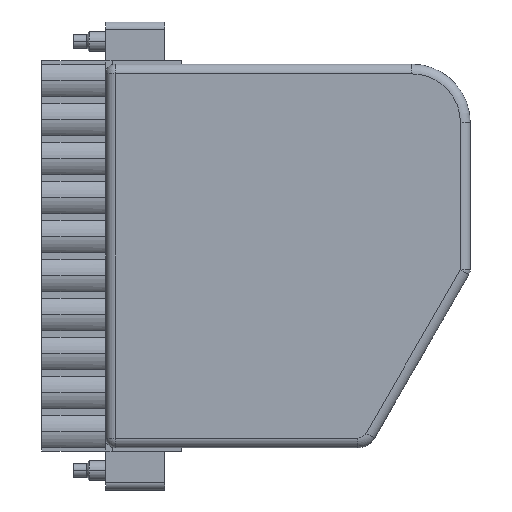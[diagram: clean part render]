
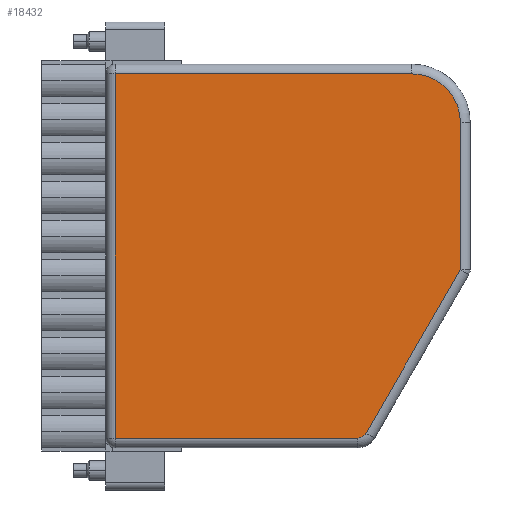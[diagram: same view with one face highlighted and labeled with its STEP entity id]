
A CAD part, front view. The second image highlights one B-rep face of the part: STEP entity #18432.
In plain terms, the highlighted planar face has unit normal (0, -1, 0).
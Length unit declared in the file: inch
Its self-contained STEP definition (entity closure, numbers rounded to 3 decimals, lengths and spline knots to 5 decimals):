
#17778=DIRECTION('',(0.5,0.,0.866));
#17779=VECTOR('',#17778,0.96887);
#17780=CARTESIAN_POINT('',(2.10666,0.27563,
-0.69443));
#17781=LINE('',#17780,#17779);
#17805=DIRECTION('',(0.,0.,-1.));
#17806=VECTOR('',#17805,1.868);
#17807=CARTESIAN_POINT('',(0.82109,0.27563,
1.14857));
#17808=LINE('',#17807,#17806);
#17845=DIRECTION('',(1.,0.,0.));
#17846=VECTOR('',#17845,1.24226);
#17847=CARTESIAN_POINT('',(0.82109,0.27563,
-0.71943));
#17848=LINE('',#17847,#17846);
#17858=CARTESIAN_POINT('',(2.06336,0.27563,
-0.66943));
#17859=DIRECTION('',(0.,-1.,0.));
#17860=DIRECTION('',(0.,0.,-1.));
#17861=AXIS2_PLACEMENT_3D('',#17858,#17859,#17860);
#17931=DIRECTION('',(0.,0.,1.));
#17932=VECTOR('',#17931,0.75394);
#17933=CARTESIAN_POINT('',(2.59109,0.27563,
0.14463));
#17934=LINE('',#17933,#17932);
#17944=CARTESIAN_POINT('',(2.34109,0.27563,
0.89857));
#17945=DIRECTION('',(0.,-1.,0.));
#17946=DIRECTION('',(1.,0.,0.));
#17947=AXIS2_PLACEMENT_3D('',#17944,#17945,#17946);
#17968=DIRECTION('',(-1.,0.,0.));
#17969=VECTOR('',#17968,1.52);
#17970=CARTESIAN_POINT('',(2.34109,0.27563,
1.14857));
#17971=LINE('',#17970,#17969);
#18229=CARTESIAN_POINT('',(0.82109,0.27563,
1.14857));
#18230=CARTESIAN_POINT('',(0.82109,0.27563,
-0.71943));
#18231=VERTEX_POINT('',#18229);
#18232=VERTEX_POINT('',#18230);
#18237=CARTESIAN_POINT('',(2.34109,0.27563,
1.14857));
#18238=VERTEX_POINT('',#18237);
#18239=CARTESIAN_POINT('',(2.59109,0.27563,
0.89857));
#18240=VERTEX_POINT('',#18239);
#18243=CARTESIAN_POINT('',(2.59109,0.27563,
0.14463));
#18244=VERTEX_POINT('',#18243);
#18247=CARTESIAN_POINT('',(2.10666,0.27563,
-0.69443));
#18248=VERTEX_POINT('',#18247);
#18253=CARTESIAN_POINT('',(2.06336,0.27563,
-0.71943));
#18254=VERTEX_POINT('',#18253);
#18412=CARTESIAN_POINT('',(1.70609,0.27563,
0.21457));
#18413=DIRECTION('',(0.,1.,0.));
#18414=DIRECTION('',(0.,0.,1.));
#18415=AXIS2_PLACEMENT_3D('',#18412,#18413,#18414);
#18416=PLANE('',#18415);
#18418=ORIENTED_EDGE('',*,*,#18417,.F.);
#18420=ORIENTED_EDGE('',*,*,#18419,.F.);
#18422=ORIENTED_EDGE('',*,*,#18421,.F.);
#18424=ORIENTED_EDGE('',*,*,#18423,.F.);
#18425=ORIENTED_EDGE('',*,*,#18402,.F.);
#18427=ORIENTED_EDGE('',*,*,#18426,.F.);
#18429=ORIENTED_EDGE('',*,*,#18428,.F.);
#18430=EDGE_LOOP('',(#18418,#18420,#18422,#18424,#18425,#18427,#18429));
#18431=FACE_OUTER_BOUND('',#18430,.F.);
#18432=ADVANCED_FACE('',(#18431),#18416,.F.);
#17862=CIRCLE('',#17861,0.05);
#17948=CIRCLE('',#17947,0.25);
#18402=EDGE_CURVE('',#18248,#18244,#17781,.T.);
#18417=EDGE_CURVE('',#18231,#18232,#17808,.T.);
#18419=EDGE_CURVE('',#18238,#18231,#17971,.T.);
#18421=EDGE_CURVE('',#18240,#18238,#17948,.T.);
#18423=EDGE_CURVE('',#18244,#18240,#17934,.T.);
#18426=EDGE_CURVE('',#18254,#18248,#17862,.T.);
#18428=EDGE_CURVE('',#18232,#18254,#17848,.T.);
